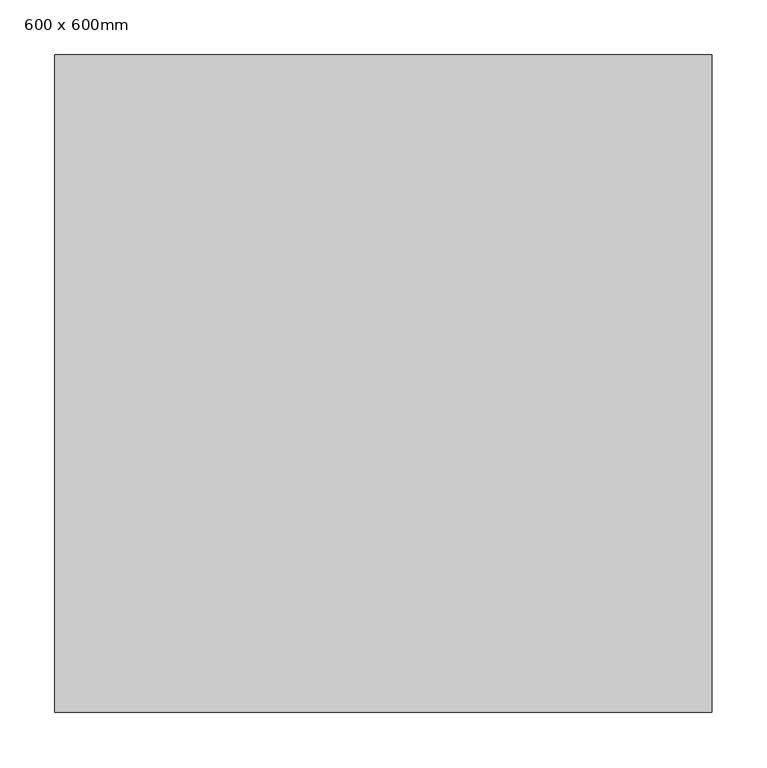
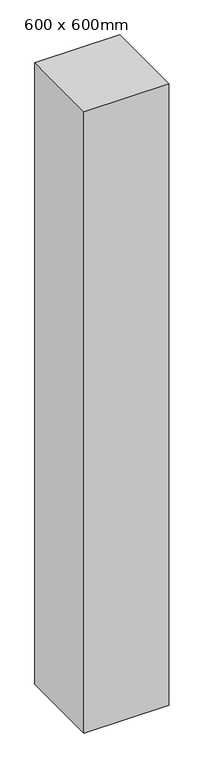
"""IFC4 building model written with IfcOpenShell, lengths in millimetres: column geometry, 矩形柱 : 600 x 600mm."""

import ifcopenshell
import ifcopenshell.guid

model = None  # the IFC model being written
_history = None  # IfcOwnerHistory: only IFC2X3 demands one
_inside = {}  # id of a spatial element -> (the spatial element, [elements in it])
_under = {}  # id of a project, library or spatial element -> (it, [spatial elements below it])
_declared = {}  # id of a project -> (the project, [libraries it declares])
_typed = {}  # id of a type object -> (the type object, [elements of that type])
_made_of = {}  # id of a material, layer set ... -> (it, [elements and type objects made of it])


def new_model(schema):
    """Start an empty IFC model of exactly this schema.

    Asked for "IFC4X3", IfcOpenShell would pick the latest addendum, in which some entities
    have other attributes; the version numbers below select the first issue.
    IFC2X3 requires an IfcOwnerHistory on every rooted entity: one is made here for all.
    """
    global model, _history
    if schema == "IFC4X3":
        model = ifcopenshell.file(schema_version=(4, 3, 0, 0))
    else:
        model = ifcopenshell.file(schema=schema)
    _inside.clear()
    _under.clear()
    _declared.clear()
    _typed.clear()
    _made_of.clear()
    _history = None
    if model.schema == "IFC2X3":
        org = make("IfcOrganization", Name="unknown")
        user = make(
            "IfcPersonAndOrganization",
            ThePerson=make("IfcPerson", FamilyName="unknown"),
            TheOrganization=org,
        )
        app = make(
            "IfcApplication",
            ApplicationDeveloper=org,
            Version="unknown",
            ApplicationFullName="unknown",
            ApplicationIdentifier="unknown",
        )
        _history = make(
            "IfcOwnerHistory",
            OwningUser=user,
            OwningApplication=app,
            ChangeAction="ADDED",
            CreationDate=0,
        )
    return model


def make(cls, **values):
    """One entity of the class cls with the attributes given. An attribute that is None is left unset."""
    return model.create_entity(
        cls, **{name: value for name, value in values.items() if value is not None}
    )


def rooted(cls, **values):
    """An entity with a GlobalId (a new one), such as an element, a storey or a relation."""
    return make(cls, GlobalId=ifcopenshell.guid.new(), OwnerHistory=_history, **values)


def si_unit(unit_type, name, prefix=None):
    """IfcSIUnit, for example si_unit("LENGTHUNIT", "METRE", prefix="MILLI")."""
    return make("IfcSIUnit", UnitType=unit_type, Prefix=prefix, Name=name)


def assignment(units):
    """IfcUnitAssignment: the units of a project."""
    return None if units is None else make("IfcUnitAssignment", Units=units)


def point(xyz):
    """IfcCartesianPoint."""
    return None if xyz is None else make("IfcCartesianPoint", Coordinates=xyz)


def direction(xyz):
    """IfcDirection."""
    return None if xyz is None else make("IfcDirection", DirectionRatios=xyz)


def frame(location, z_axis=None, x_axis=None):
    """IfcAxis2Placement3D, a coordinate frame: its origin and axes. An axis left out is left unset."""
    return make(
        "IfcAxis2Placement3D",
        Location=point(location),
        Axis=direction(z_axis),
        RefDirection=direction(x_axis),
    )


def origin():
    """The frame at (0, 0, 0) with its axes left unset."""
    return frame((0.0, 0.0, 0.0))


def place(relative_to, where):
    """IfcLocalPlacement: puts the frame where relative to a parent placement (None: the world)."""
    return make(
        "IfcLocalPlacement", PlacementRelTo=relative_to, RelativePlacement=where
    )


def context(
    kind, dimensions, precision=None, world=None, true_north=None, identifier=None
):
    """IfcGeometricRepresentationContext, for example the 3D "Model" context."""
    return make(
        "IfcGeometricRepresentationContext",
        ContextIdentifier=identifier,
        ContextType=kind,
        CoordinateSpaceDimension=dimensions,
        Precision=precision,
        WorldCoordinateSystem=world,
        TrueNorth=true_north,
    )


def project(units=None, contexts=None):
    """IfcProject with its units and contexts."""
    return rooted(
        "IfcProject",
        Name="project",
        RepresentationContexts=contexts,
        UnitsInContext=assignment(units),
    )


def spatial(cls, under=None, at=None, **own):
    """A site, building, storey or space (cls), placed at a placement, below another one or the project."""
    s = rooted(cls, ObjectPlacement=at, **own)
    if under is not None:
        _under.setdefault(under.id(), (under, []))[1].append(s)
    return s


def polyline(points):
    """IfcPolyline through the points."""
    return make("IfcPolyline", Points=[point(p) for p in points])


def outline(outer, holes=None, kind="AREA"):
    """IfcArbitraryClosedProfileDef: a profile drawn as a closed curve; with holes, ...WithVoids."""
    if holes is None:
        return make("IfcArbitraryClosedProfileDef", ProfileType=kind, OuterCurve=outer)
    return make(
        "IfcArbitraryProfileDefWithVoids",
        ProfileType=kind,
        OuterCurve=outer,
        InnerCurves=holes,
    )


def extrude(swept, where, along, depth):
    """IfcExtrudedAreaSolid: the profile swept, set in the frame where, extruded along a direction by depth."""
    return make(
        "IfcExtrudedAreaSolid",
        SweptArea=swept,
        Position=where,
        ExtrudedDirection=direction(along),
        Depth=depth,
    )


def shape(context_of_items, identifier, shape_type, items):
    """IfcShapeRepresentation: the items that make up one representation, for example the "Body"."""
    return make(
        "IfcShapeRepresentation",
        ContextOfItems=context_of_items,
        RepresentationIdentifier=identifier,
        RepresentationType=shape_type,
        Items=items,
    )


def source(mapping_origin, context_of_items, identifier, shape_type, items):
    """IfcRepresentationMap: a shape defined once, which mapped items show again and again."""
    return make(
        "IfcRepresentationMap",
        MappingOrigin=mapping_origin,
        MappedRepresentation=shape(context_of_items, identifier, shape_type, items),
    )


def transform(
    local_origin,
    x_axis=None,
    y_axis=None,
    z_axis=None,
    scale=None,
    scale2=None,
    scale3=None,
    uniform=True,
):
    """IfcCartesianTransformationOperator3D, or its non-uniform kind. x_axis, y_axis, z_axis: its Axis1, 2, 3."""
    if uniform:
        return make(
            "IfcCartesianTransformationOperator3D",
            Axis1=direction(x_axis),
            Axis2=direction(y_axis),
            LocalOrigin=point(local_origin),
            Scale=scale,
            Axis3=direction(z_axis),
        )
    return make(
        "IfcCartesianTransformationOperator3DnonUniform",
        Axis1=direction(x_axis),
        Axis2=direction(y_axis),
        LocalOrigin=point(local_origin),
        Scale=scale,
        Axis3=direction(z_axis),
        Scale2=scale2,
        Scale3=scale3,
    )


def mapped(mapping_source, mapping_target):
    """IfcMappedItem: shows the shape of a source again, moved by a transform."""
    return make(
        "IfcMappedItem", MappingSource=mapping_source, MappingTarget=mapping_target
    )


def made_of(thing, what):
    """Note that an element or type object is made of a material, layer set ...; save() writes the relation."""
    if what is not None:
        _made_of.setdefault(what.id(), (what, []))[1].append(thing)
    return thing


def element(
    cls,
    number,
    at=None,
    inside=None,
    cuts=None,
    type_object=None,
    material=None,
    context=None,
    identifier="Body",
    shape_type=None,
    held_by="IfcProductDefinitionShape",
    body=None,
    shapes=None,
    **own,
):
    """One element of the class cls, such as IfcWall. Its Tag is "e" and its number.

    at: its placement. inside: the storey or other place that contains it. cuts: it is an
    opening in that element (IfcRelVoidsElement). A single representation is given by context,
    identifier, shape_type and body (its items); several are given by shapes. held_by: the class
    of the entity that holds the representations. save() writes the other relations.
    """
    e = rooted(cls, Tag="e%d" % number, ObjectPlacement=at, **own)
    if body is not None:
        shapes = [shape(context, identifier, shape_type, body)]
    if shapes is not None:
        e.Representation = make(held_by, Representations=shapes)
    if inside is not None:
        _inside.setdefault(inside.id(), (inside, []))[1].append(e)
    if cuts is not None:
        rooted(
            "IfcRelVoidsElement", RelatingBuildingElement=cuts, RelatedOpeningElement=e
        )
    if type_object is not None:
        _typed.setdefault(type_object.id(), (type_object, []))[1].append(e)
    return made_of(e, material)


def aggregate(whole, parts):
    """IfcRelAggregates: a whole, such as a stair, and the parts it consists of."""
    return rooted("IfcRelAggregates", RelatingObject=whole, RelatedObjects=parts)


def save(model, path):
    """Write the relations noted so far, then the file.

    IfcRelAggregates (storeys below a building ...), IfcRelContainedInSpatialStructure (elements
    in a storey), IfcRelDefinesByType, IfcRelAssociatesMaterial and IfcRelDeclares: one each for
    every whole, place, type object, material and project.
    """
    for whole, parts in _under.values():
        aggregate(whole, parts)
    for where, things in _inside.values():
        rooted(
            "IfcRelContainedInSpatialStructure",
            RelatedElements=things,
            RelatingStructure=where,
        )
    for kind, things in _typed.values():
        rooted("IfcRelDefinesByType", RelatedObjects=things, RelatingType=kind)
    for what, things in _made_of.values():
        rooted("IfcRelAssociatesMaterial", RelatedObjects=things, RelatingMaterial=what)
    for by, libraries in _declared.values():
        rooted("IfcRelDeclares", RelatingContext=by, RelatedDefinitions=libraries)
    model.write(path)


def column_600_x_600mm_80347e26(model_context):
    return source(origin(), model_context, "Body", "SweptSolid", [
        extrude(outline(polyline([(300.0, 300.0), (300.0, -300.0), (-300.0, -300.0), (-300.0, 300.0), (300.0, 300.0)])), frame((0.0, 0.0, -450.0), z_axis=(0.0, 0.0, 1.0), x_axis=(1.0, 0.0, 0.0)), (0.0, 0.0, 1.0), 4650.0),
    ])


if __name__ == "__main__":
    model = new_model("IFC4")
    model_context = context("Model", 3, world=origin())
    ifc_project = project(units=[si_unit("LENGTHUNIT", "METRE", prefix="MILLI")], contexts=[model_context])
    site = spatial("IfcSite", under=ifc_project)
    building = spatial("IfcBuilding", under=site)
    placement = place(None, origin())
    column_600_x_600mm_shape = column_600_x_600mm_80347e26(model_context)
    element("IfcColumn", 1, ObjectType="矩形柱 : 600 x 600mm", at=placement, inside=building, context=model_context, shape_type="MappedRepresentation", body=[
        mapped(column_600_x_600mm_shape, transform((0.0, 0.0, 0.0), x_axis=(1.0, 0.0, 0.0), y_axis=(0.0, 1.0, 0.0), z_axis=(0.0, 0.0, 1.0))),
    ])
    save(model, "model.ifc")
